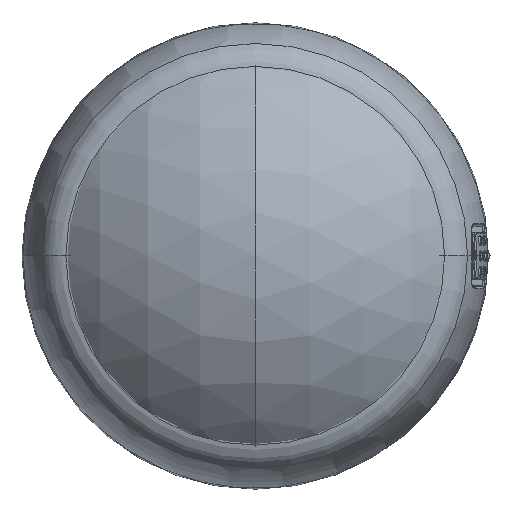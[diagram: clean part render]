
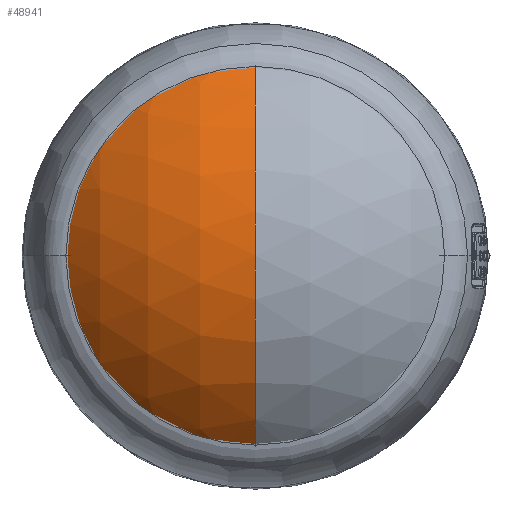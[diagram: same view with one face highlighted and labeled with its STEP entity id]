
A CAD part, top view. The second image highlights one B-rep face of the part: STEP entity #48941.
In plain terms, the highlighted spherical face has radius 17.25 mm.
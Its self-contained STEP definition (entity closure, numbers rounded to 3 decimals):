
#9732 = DIRECTION ( 'NONE',  ( 0., 1., 0. ) ) ;
#11266 = VERTEX_POINT ( 'NONE', #30865 ) ;
#25758 = SPHERICAL_SURFACE ( 'NONE', #31267, 17.25 ) ;
#28513 = CARTESIAN_POINT ( 'NONE',  ( 0., 6.602, 0. ) ) ;
#30865 = CARTESIAN_POINT ( 'NONE',  ( 0., -5.116, -12.659 ) ) ;
#31267 = AXIS2_PLACEMENT_3D ( 'NONE', #84594, #192696, #161901 ) ;
#34301 = CIRCLE ( 'NONE', #145407, 17.25 ) ;
#48941 = ADVANCED_FACE ( 'NONE', ( #79713 ), #25758, .T. ) ;
#49212 = CARTESIAN_POINT ( 'NONE',  ( 0., -10.648, 0. ) ) ;
#55512 = CARTESIAN_POINT ( 'NONE',  ( 0., -5.116, 0. ) ) ;
#64615 = VERTEX_POINT ( 'NONE', #49212 ) ;
#70368 = DIRECTION ( 'NONE',  ( 1., 0., 0. ) ) ;
#79713 = FACE_OUTER_BOUND ( 'NONE', #150330, .T. ) ;
#84594 = CARTESIAN_POINT ( 'NONE',  ( 0., 6.602, 0. ) ) ;
#85911 = AXIS2_PLACEMENT_3D ( 'NONE', #55512, #9732, #130972 ) ;
#89430 = CARTESIAN_POINT ( 'NONE',  ( 0., 6.602, 0. ) ) ;
#92303 = CIRCLE ( 'NONE', #85911, 12.659 ) ;
#106281 = DIRECTION ( 'NONE',  ( -1., 0., 0. ) ) ;
#107057 = EDGE_CURVE ( 'NONE', #64615, #150473, #34301, .T. ) ;
#126928 = AXIS2_PLACEMENT_3D ( 'NONE', #28513, #70368, #162695 ) ;
#130972 = DIRECTION ( 'NONE',  ( 0., 0., 1. ) ) ;
#137039 = DIRECTION ( 'NONE',  ( 0., 0., 1. ) ) ;
#138151 = ORIENTED_EDGE ( 'NONE', *, *, #169247, .F. ) ;
#142879 = CIRCLE ( 'NONE', #126928, 17.25 ) ;
#145407 = AXIS2_PLACEMENT_3D ( 'NONE', #89430, #106281, #137039 ) ;
#150330 = EDGE_LOOP ( 'NONE', ( #138151, #152169, #167165 ) ) ;
#150473 = VERTEX_POINT ( 'NONE', #164941 ) ;
#152001 = EDGE_CURVE ( 'NONE', #11266, #150473, #92303, .T. ) ;
#152169 = ORIENTED_EDGE ( 'NONE', *, *, #107057, .T. ) ;
#161901 = DIRECTION ( 'NONE',  ( 0., 0., 1. ) ) ;
#162695 = DIRECTION ( 'NONE',  ( 0., 0., -1. ) ) ;
#164941 = CARTESIAN_POINT ( 'NONE',  ( 0., -5.116, 12.659 ) ) ;
#167165 = ORIENTED_EDGE ( 'NONE', *, *, #152001, .F. ) ;
#169247 = EDGE_CURVE ( 'NONE', #64615, #11266, #142879, .T. ) ;
#192696 = DIRECTION ( 'NONE',  ( 1., 0., 0. ) ) ;
